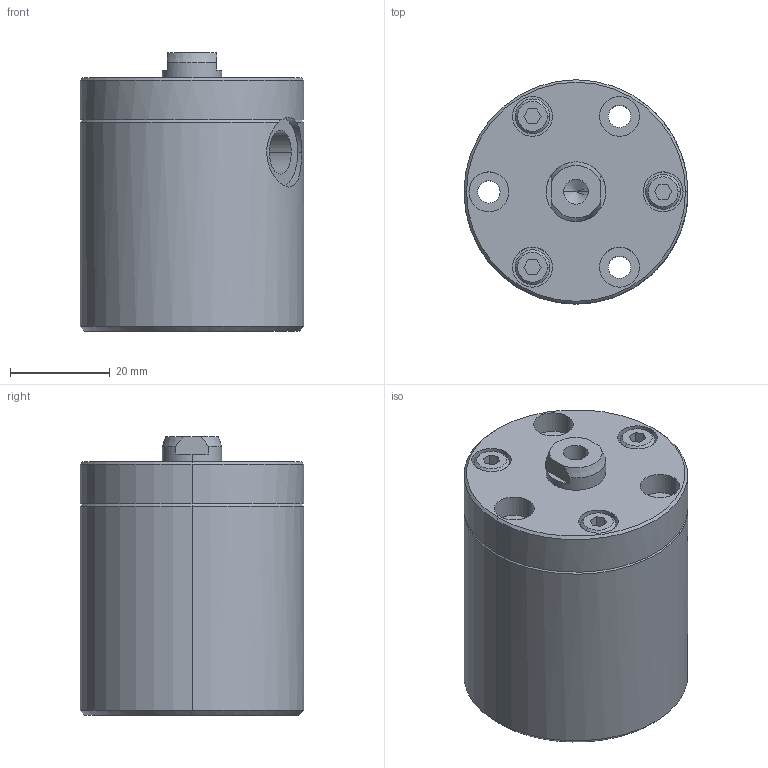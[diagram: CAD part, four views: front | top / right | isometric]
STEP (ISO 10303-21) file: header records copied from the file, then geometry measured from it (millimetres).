
FILE_DESCRIPTION (( 'STEP AP203' ), '1' );
FILE_NAME ('4360 122.STEP', '2016-01-28T12:20:53', ( '' ), ( '' ), 'SwSTEP 2.0', 'SolidWorks 2015', '' );
FILE_SCHEMA (( 'CONFIG_CONTROL_DESIGN' ));
Length unit declared in the file: millimetre
Products named in the file (1): 4360 122
Bounding box: 45 x 45 x 56 mm (x, y, z)
Volume: 74269.4 mm3; surface area: 15207.9 mm2
Topology: 1 solids, 1 shells, 110 faces, 259 edges, 162 vertices
Faces by surface type: cylinder 46, plane 43, cone 21
Entity records: 3393 total; most frequent: CARTESIAN_POINT 724, DIRECTION 576, ORIENTED_EDGE 506, EDGE_CURVE 253, AXIS2_PLACEMENT_3D 224, VERTEX_POINT 162, EDGE_LOOP 133, VECTOR 128
